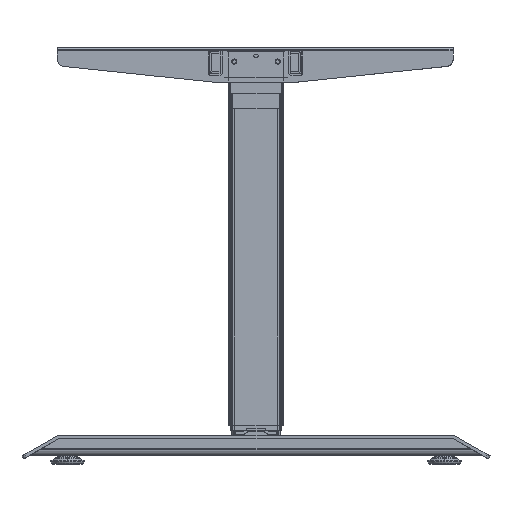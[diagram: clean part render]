
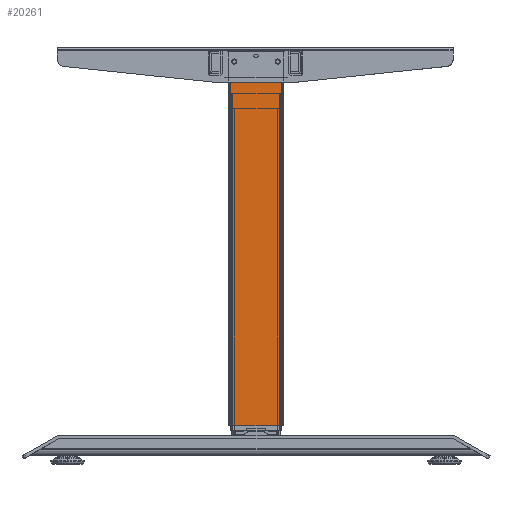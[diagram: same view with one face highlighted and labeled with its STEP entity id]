
A CAD part, front view. The second image highlights one B-rep face of the part: STEP entity #20261.
In plain terms, the highlighted planar face has unit normal (0, -1, 0).
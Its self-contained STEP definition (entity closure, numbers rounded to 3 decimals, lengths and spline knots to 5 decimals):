
#19897=DIRECTION('',(0.,0.,1.));
#19898=VECTOR('',#19897,0.5);
#19899=CARTESIAN_POINT('',(-0.37825,-0.08757,
0.14602));
#19900=LINE('',#19899,#19898);
#19905=DIRECTION('',(1.,0.,0.));
#19906=VECTOR('',#19905,0.074);
#19907=CARTESIAN_POINT('',(-0.37825,-0.08757,
0.14602));
#19908=LINE('',#19907,#19906);
#19913=DIRECTION('',(0.,0.,-1.));
#19914=VECTOR('',#19913,0.5);
#19915=CARTESIAN_POINT('',(-0.30425,-0.08751,
0.64602));
#19916=LINE('',#19915,#19914);
#19997=DIRECTION('',(1.,0.,0.));
#19998=VECTOR('',#19997,0.074);
#19999=CARTESIAN_POINT('',(-0.37825,-0.08751,
0.64602));
#20000=LINE('',#19999,#19998);
#20009=CARTESIAN_POINT('',(-0.37825,-0.08757,
0.14602));
#20011=VERTEX_POINT('',#20009);
#20013=CARTESIAN_POINT('',(-0.30425,-0.08757,
0.14602));
#20014=VERTEX_POINT('',#20013);
#20039=CARTESIAN_POINT('',(-0.37825,-0.08751,
0.64602));
#20040=VERTEX_POINT('',#20039);
#20051=CARTESIAN_POINT('',(-0.30425,-0.08751,
0.64602));
#20052=VERTEX_POINT('',#20051);
#20248=CARTESIAN_POINT('',(-0.37825,-0.08757,
0.14602));
#20249=DIRECTION('',(0.,-1.,0.));
#20250=DIRECTION('',(1.,0.,0.));
#20251=AXIS2_PLACEMENT_3D('',#20248,#20249,#20250);
#20252=PLANE('',#20251);
#20254=ORIENTED_EDGE('',*,*,#20253,.T.);
#20255=ORIENTED_EDGE('',*,*,#20194,.F.);
#20256=ORIENTED_EDGE('',*,*,#20239,.T.);
#20258=ORIENTED_EDGE('',*,*,#20257,.T.);
#20259=EDGE_LOOP('',(#20254,#20255,#20256,#20258));
#20260=FACE_OUTER_BOUND('',#20259,.F.);
#20261=ADVANCED_FACE('',(#20260),#20252,.T.);
#20194=EDGE_CURVE('',#20011,#20014,#19908,.T.);
#20239=EDGE_CURVE('',#20011,#20040,#19900,.T.);
#20253=EDGE_CURVE('',#20052,#20014,#19916,.T.);
#20257=EDGE_CURVE('',#20040,#20052,#20000,.T.);
